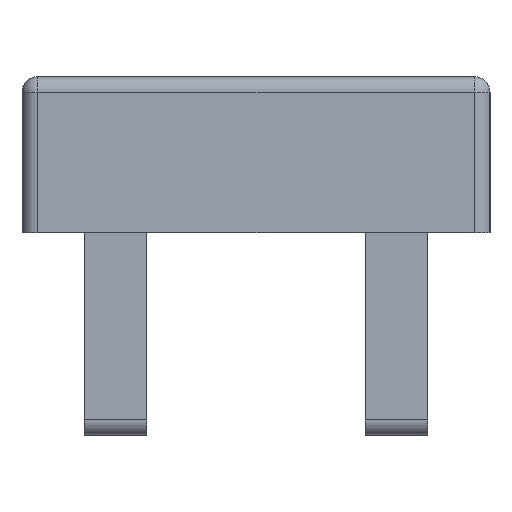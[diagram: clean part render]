
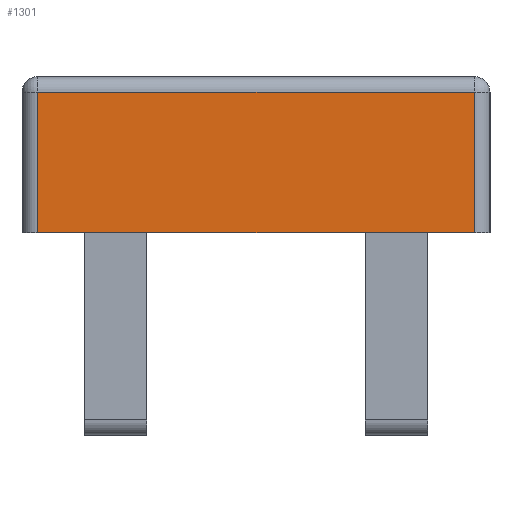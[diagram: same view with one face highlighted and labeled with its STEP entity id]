
A CAD part, left-side view. The second image highlights one B-rep face of the part: STEP entity #1301.
In plain terms, the highlighted planar face has unit normal (-1, 0, 0).
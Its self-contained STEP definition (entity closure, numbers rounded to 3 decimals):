
#30 = VERTEX_POINT ( 'NONE', #1138 ) ;
#51 = DIRECTION ( 'NONE',  ( 1., 0., 0. ) ) ;
#93 = CARTESIAN_POINT ( 'NONE',  ( -45., -7., 5. ) ) ;
#98 = CARTESIAN_POINT ( 'NONE',  ( -45., -7., 4.5 ) ) ;
#100 = LINE ( 'NONE', #832, #665 ) ;
#103 = EDGE_CURVE ( 'NONE', #304, #186, #945, .T. ) ;
#119 = EDGE_CURVE ( 'NONE', #186, #1256, #574, .T. ) ;
#139 = CARTESIAN_POINT ( 'NONE',  ( -45., -7., 0. ) ) ;
#186 = VERTEX_POINT ( 'NONE', #98 ) ;
#249 = VECTOR ( 'NONE', #571, 1000. ) ;
#304 = VERTEX_POINT ( 'NONE', #139 ) ;
#349 = AXIS2_PLACEMENT_3D ( 'NONE', #972, #51, #1354 ) ;
#358 = ORIENTED_EDGE ( 'NONE', *, *, #796, .T. ) ;
#433 = DIRECTION ( 'NONE',  ( 0., 1., 0. ) ) ;
#438 = ORIENTED_EDGE ( 'NONE', *, *, #770, .T. ) ;
#441 = ORIENTED_EDGE ( 'NONE', *, *, #103, .T. ) ;
#540 = DIRECTION ( 'NONE',  ( 0., -1., 0. ) ) ;
#571 = DIRECTION ( 'NONE',  ( 0., 0., 1. ) ) ;
#574 = LINE ( 'NONE', #1246, #865 ) ;
#590 = LINE ( 'NONE', #1528, #1484 ) ;
#665 = VECTOR ( 'NONE', #870, 1000. ) ;
#770 = EDGE_CURVE ( 'NONE', #1256, #30, #100, .T. ) ;
#796 = EDGE_CURVE ( 'NONE', #30, #304, #590, .T. ) ;
#832 = CARTESIAN_POINT ( 'NONE',  ( -45., 7., 5. ) ) ;
#865 = VECTOR ( 'NONE', #433, 1000. ) ;
#870 = DIRECTION ( 'NONE',  ( 0., 0., -1. ) ) ;
#930 = ORIENTED_EDGE ( 'NONE', *, *, #119, .T. ) ;
#945 = LINE ( 'NONE', #93, #249 ) ;
#972 = CARTESIAN_POINT ( 'NONE',  ( -45., -7.5, 5. ) ) ;
#1009 = FACE_OUTER_BOUND ( 'NONE', #1017, .T. ) ;
#1017 = EDGE_LOOP ( 'NONE', ( #358, #441, #930, #438 ) ) ;
#1138 = CARTESIAN_POINT ( 'NONE',  ( -45., 7., 0. ) ) ;
#1224 = CARTESIAN_POINT ( 'NONE',  ( -45., 7., 4.5 ) ) ;
#1246 = CARTESIAN_POINT ( 'NONE',  ( -45., -7.5, 4.5 ) ) ;
#1256 = VERTEX_POINT ( 'NONE', #1224 ) ;
#1301 = ADVANCED_FACE ( 'NONE', ( #1009 ), #1365, .F. ) ;
#1354 = DIRECTION ( 'NONE',  ( 0., 0., -1. ) ) ;
#1365 = PLANE ( 'NONE',  #349 ) ;
#1484 = VECTOR ( 'NONE', #540, 1000. ) ;
#1528 = CARTESIAN_POINT ( 'NONE',  ( -45., -7.5, 0. ) ) ;
